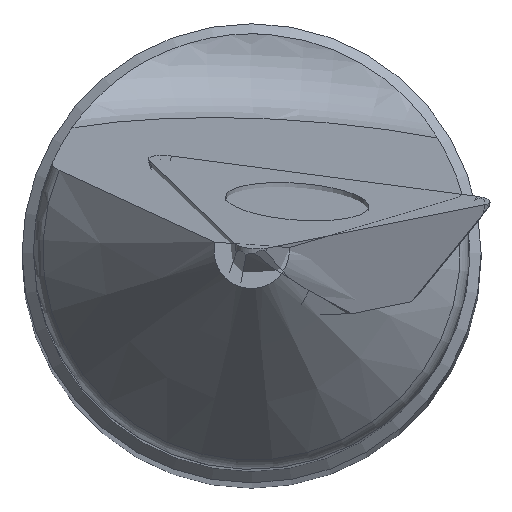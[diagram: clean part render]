
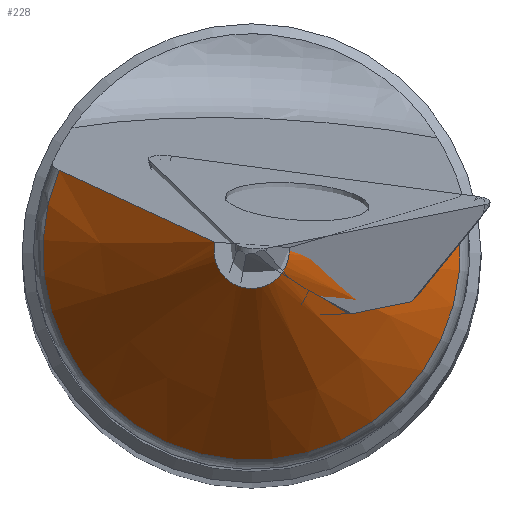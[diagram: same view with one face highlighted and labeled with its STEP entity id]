
A CAD part, top view. The second image highlights one B-rep face of the part: STEP entity #228.
In plain terms, the highlighted conical face has half-angle 36.982 degrees and reference radius 1.639 mm.
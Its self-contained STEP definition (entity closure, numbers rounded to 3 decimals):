
#228=ADVANCED_FACE('',(#276),#266,.T.);
#266=CONICAL_SURFACE('',#706,1.639,36.982);
#276=FACE_OUTER_BOUND('',#304,.T.);
#304=EDGE_LOOP('',(#373,#374,#375,#376));
#353=CIRCLE('',#704,1.639);
#354=CIRCLE('',#705,9.098);
#373=ORIENTED_EDGE('',*,*,#600,.F.);
#374=ORIENTED_EDGE('',*,*,#601,.T.);
#375=ORIENTED_EDGE('',*,*,#602,.T.);
#376=ORIENTED_EDGE('',*,*,#603,.T.);
#541=VERTEX_POINT('',#953);
#542=VERTEX_POINT('',#954);
#543=VERTEX_POINT('',#956);
#544=VERTEX_POINT('',#967);
#600=EDGE_CURVE('',#541,#542,#684,.T.);
#601=EDGE_CURVE('',#541,#543,#353,.T.);
#602=EDGE_CURVE('',#543,#544,#685,.T.);
#603=EDGE_CURVE('',#544,#542,#354,.T.);
#684=B_SPLINE_CURVE_WITH_KNOTS('',3,(#946,#947,#948,#949,#950,#951,#952),
 .UNSPECIFIED.,.F.,.F.,(4,3,4),(0.,0.737,1.),.UNSPECIFIED.);
#685=B_SPLINE_CURVE_WITH_KNOTS('',3,(#957,#958,#959,#960,#961,#962,#963,
#964,#965,#966),.UNSPECIFIED.,.F.,.F.,(4,3,3,4),(0.,0.165,0.824,
1.),.UNSPECIFIED.);
#704=AXIS2_PLACEMENT_3D('',#955,#774,#775);
#705=AXIS2_PLACEMENT_3D('',#968,#776,#777);
#706=AXIS2_PLACEMENT_3D('',#969,#778,#779);
#774=DIRECTION('',(0.,0.,-1.));
#775=DIRECTION('',(-1.,0.,0.));
#776=DIRECTION('',(0.,0.,1.));
#777=DIRECTION('',(1.,0.,0.));
#778=DIRECTION('',(0.,0.,-1.));
#779=DIRECTION('',(-1.,0.,0.));
#946=CARTESIAN_POINT('',(1.632,0.15,-1.407));
#947=CARTESIAN_POINT('',(3.415,0.669,-3.827));
#948=CARTESIAN_POINT('',(5.165,1.197,-6.27));
#949=CARTESIAN_POINT('',(6.924,1.722,-8.706));
#950=CARTESIAN_POINT('',(7.552,1.91,-9.574));
#951=CARTESIAN_POINT('',(8.179,2.097,-10.443));
#952=CARTESIAN_POINT('',(8.806,2.284,-11.312));
#953=CARTESIAN_POINT('',(1.632,0.15,-1.407));
#954=CARTESIAN_POINT('',(8.806,2.284,-11.312));
#955=CARTESIAN_POINT('',(0.,0.,-1.407));
#956=CARTESIAN_POINT('',(-1.593,0.383,-1.407));
#957=CARTESIAN_POINT('',(-1.593,0.383,-1.407));
#958=CARTESIAN_POINT('',(-1.971,0.556,-1.948));
#959=CARTESIAN_POINT('',(-2.345,0.728,-2.491));
#960=CARTESIAN_POINT('',(-2.719,0.901,-3.035));
#961=CARTESIAN_POINT('',(-4.216,1.592,-5.21));
#962=CARTESIAN_POINT('',(-5.704,2.284,-7.389));
#963=CARTESIAN_POINT('',(-7.194,2.975,-9.568));
#964=CARTESIAN_POINT('',(-7.591,3.16,-10.149));
#965=CARTESIAN_POINT('',(-7.988,3.344,-10.73));
#966=CARTESIAN_POINT('',(-8.385,3.529,-11.312));
#967=CARTESIAN_POINT('',(-8.385,3.529,-11.312));
#968=CARTESIAN_POINT('',(0.,0.,-11.312));
#969=CARTESIAN_POINT('',(0.,0.,-1.407));
